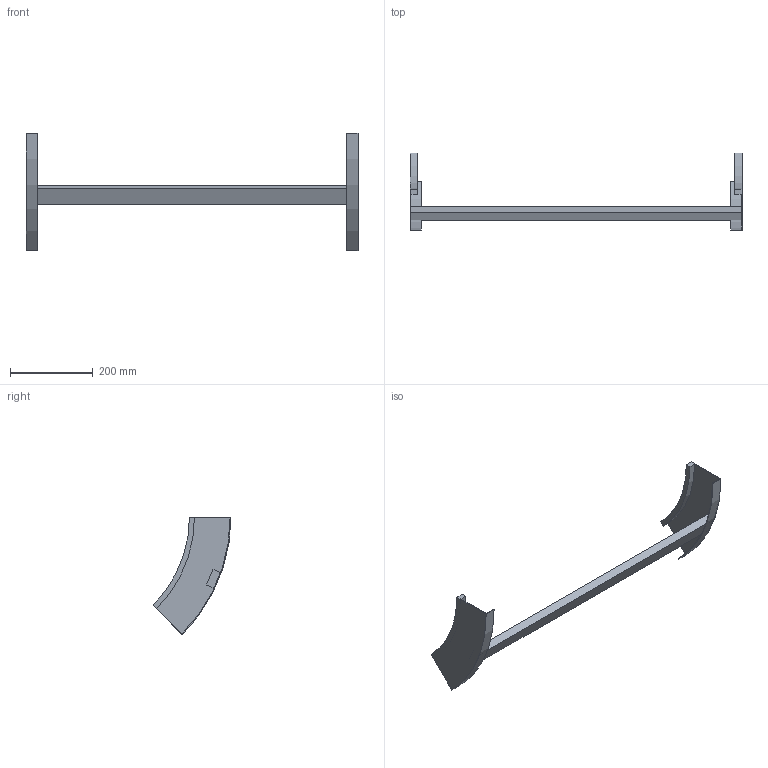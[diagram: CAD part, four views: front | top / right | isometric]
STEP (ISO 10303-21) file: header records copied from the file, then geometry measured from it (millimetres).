
FILE_DESCRIPTION (( 'STEP AP214' ), '1' );
FILE_NAME ('B2X31B3D800XX.step', '2025-03-20T10:05:32', ( '' ), ( '' ), 'SwSTEP 2.0', 'SolidWorks 2023', '' );
FILE_SCHEMA (( 'AUTOMOTIVE_DESIGN' ));
Length unit declared in the file: millimetre
Products named in the file (3): TRAVERSINO_800; B2_LONGH.SALITA_45°_H100_R300; B2X31B3D800XX
Assembly tree (3 placements, depth 2):
  B2X31B3D800XX
    B2_LONGH.SALITA_45°_H100_R300  x2
    TRAVERSINO_800
Bounding box: 800 x 187.87 x 282.84 mm (x, y, z)
Volume: 878340.6 mm3; surface area: 258577.5 mm2
Topology: 3 solids, 3 shells, 26 faces, 60 edges, 40 vertices
Faces by surface type: plane 18, cylinder 8
Entity records: 544 total; most frequent: DIRECTION 88, CARTESIAN_POINT 82, ORIENTED_EDGE 72, EDGE_CURVE 36, AXIS2_PLACEMENT_3D 30, LINE 28, VECTOR 28, VERTEX_POINT 24
